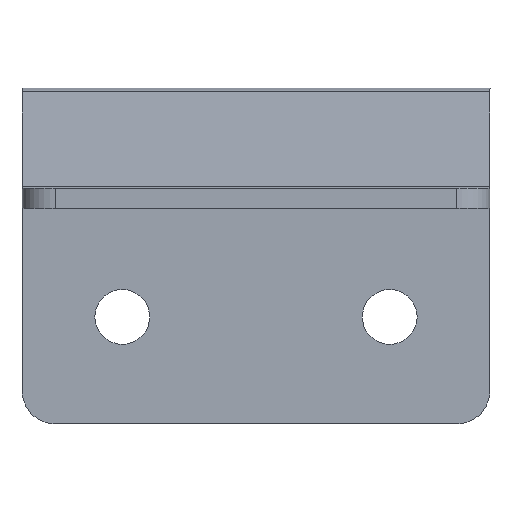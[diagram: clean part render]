
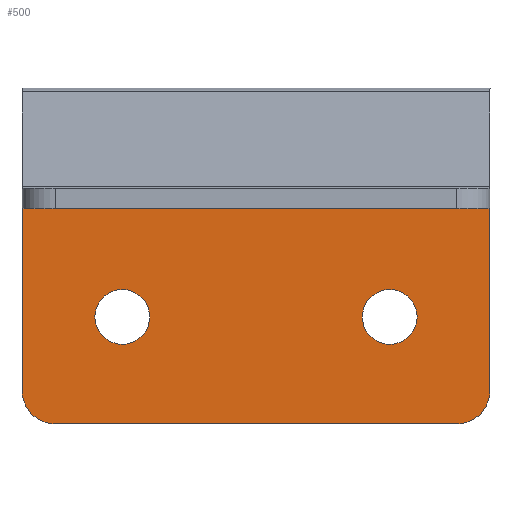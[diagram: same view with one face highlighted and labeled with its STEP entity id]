
A CAD part, top view. The second image highlights one B-rep face of the part: STEP entity #500.
In plain terms, the highlighted planar face has unit normal (0, 0, 1).
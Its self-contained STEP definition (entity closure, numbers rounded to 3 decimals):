
#17=FACE_BOUND('',#75,.T.);
#18=FACE_BOUND('',#76,.T.);
#28=PLANE('',#565);
#46=FACE_OUTER_BOUND('',#74,.T.);
#74=EDGE_LOOP('',(#379,#380,#381,#382,#383,#384));
#75=EDGE_LOOP('',(#385));
#76=EDGE_LOOP('',(#386));
#114=LINE('',#811,#158);
#118=LINE('',#829,#162);
#119=LINE('',#833,#163);
#120=LINE('',#836,#164);
#158=VECTOR('',#655,10.);
#162=VECTOR('',#673,10.);
#163=VECTOR('',#676,10.);
#164=VECTOR('',#679,10.);
#199=CIRCLE('',#566,5.);
#200=CIRCLE('',#567,5.);
#201=CIRCLE('',#568,4.1);
#202=CIRCLE('',#569,4.1);
#233=VERTEX_POINT('',#808);
#234=VERTEX_POINT('',#810);
#241=VERTEX_POINT('',#828);
#242=VERTEX_POINT('',#830);
#243=VERTEX_POINT('',#832);
#244=VERTEX_POINT('',#834);
#245=VERTEX_POINT('',#837);
#246=VERTEX_POINT('',#839);
#289=EDGE_CURVE('',#234,#233,#114,.T.);
#298=EDGE_CURVE('',#241,#233,#118,.T.);
#299=EDGE_CURVE('',#242,#241,#199,.T.);
#300=EDGE_CURVE('',#243,#242,#119,.T.);
#301=EDGE_CURVE('',#244,#243,#200,.T.);
#302=EDGE_CURVE('',#234,#244,#120,.T.);
#303=EDGE_CURVE('',#245,#245,#201,.T.);
#304=EDGE_CURVE('',#246,#246,#202,.T.);
#379=ORIENTED_EDGE('',*,*,#289,.T.);
#380=ORIENTED_EDGE('',*,*,#298,.F.);
#381=ORIENTED_EDGE('',*,*,#299,.F.);
#382=ORIENTED_EDGE('',*,*,#300,.F.);
#383=ORIENTED_EDGE('',*,*,#301,.F.);
#384=ORIENTED_EDGE('',*,*,#302,.F.);
#385=ORIENTED_EDGE('',*,*,#303,.T.);
#386=ORIENTED_EDGE('',*,*,#304,.T.);
#500=ADVANCED_FACE('',(#46,#17,#18),#28,.T.);
#565=AXIS2_PLACEMENT_3D('',#827,#671,#672);
#566=AXIS2_PLACEMENT_3D('',#831,#674,#675);
#567=AXIS2_PLACEMENT_3D('',#835,#677,#678);
#568=AXIS2_PLACEMENT_3D('',#838,#680,#681);
#569=AXIS2_PLACEMENT_3D('',#840,#682,#683);
#655=DIRECTION('',(-1.,0.,0.));
#671=DIRECTION('center_axis',(0.,0.,1.));
#672=DIRECTION('ref_axis',(1.,0.,0.));
#673=DIRECTION('',(0.,1.,0.));
#674=DIRECTION('center_axis',(0.,0.,-1.));
#675=DIRECTION('ref_axis',(-0.707,-0.707,0.));
#676=DIRECTION('',(-1.,0.,0.));
#677=DIRECTION('center_axis',(0.,0.,-1.));
#678=DIRECTION('ref_axis',(0.707,-0.707,0.));
#679=DIRECTION('',(0.,-1.,0.));
#680=DIRECTION('center_axis',(0.,0.,-1.));
#681=DIRECTION('ref_axis',(1.,0.,0.));
#682=DIRECTION('center_axis',(0.,0.,-1.));
#683=DIRECTION('ref_axis',(1.,0.,0.));
#808=CARTESIAN_POINT('',(0.,44.107,3.));
#810=CARTESIAN_POINT('',(70.,44.107,3.));
#811=CARTESIAN_POINT('',(17.5,44.107,3.));
#827=CARTESIAN_POINT('Origin',(35.,94.5,3.));
#828=CARTESIAN_POINT('',(0.,5.,3.));
#829=CARTESIAN_POINT('',(0.,189.,3.));
#830=CARTESIAN_POINT('',(5.,0.,3.));
#831=CARTESIAN_POINT('Origin',(5.,5.,3.));
#832=CARTESIAN_POINT('',(65.,0.,3.));
#833=CARTESIAN_POINT('',(0.,0.,3.));
#834=CARTESIAN_POINT('',(70.,5.,3.));
#835=CARTESIAN_POINT('Origin',(65.,5.,3.));
#836=CARTESIAN_POINT('',(70.,0.,3.));
#837=CARTESIAN_POINT('',(10.9,16.,3.));
#838=CARTESIAN_POINT('Origin',(15.,16.,3.));
#839=CARTESIAN_POINT('',(50.9,16.,3.));
#840=CARTESIAN_POINT('Origin',(55.,16.,3.));
